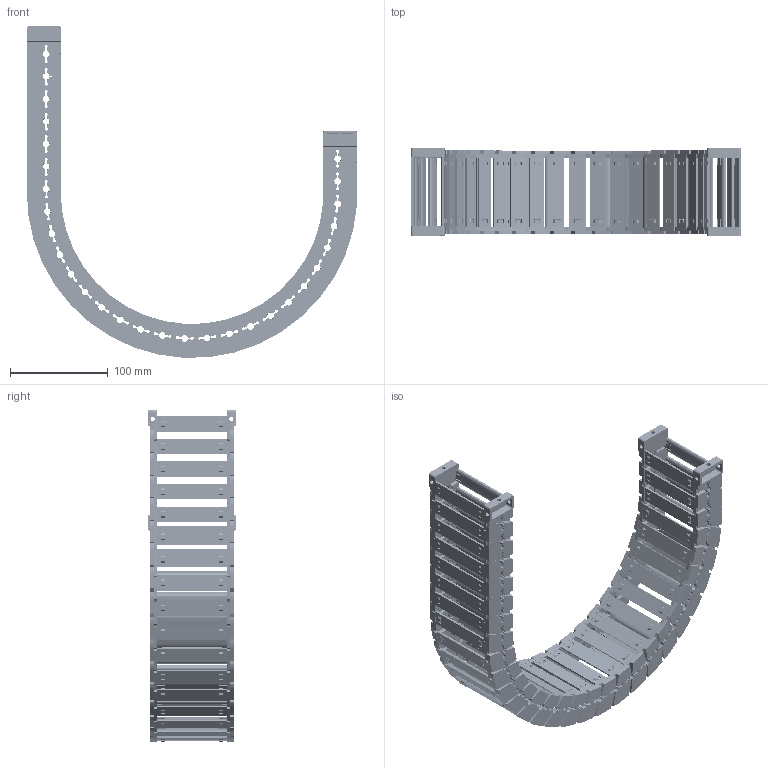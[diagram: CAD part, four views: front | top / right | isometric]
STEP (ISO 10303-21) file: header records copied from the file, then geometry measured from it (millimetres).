
FILE_DESCRIPTION((''),'2;1');
FILE_NAME('JY-28X70-R150_ASM','2026-03-25T20:55:38',('admin'),(''),'CREO PARAMETRIC BY PTC INC, 2021023','CREO PARAMETRIC BY PTC INC, 2021023','');
FILE_SCHEMA(('CONFIG_CONTROL_DESIGN'));
Length unit declared in the file: millimetre
Products named in the file (11): 28XL-L; 25-35XL-YP; 28XL-R; ASM0001_ASM; 28-LTT-A-L; 28-LTT-A-R; 28XL-LTT-A_ASM; 28-LTT-B-L; 28-LTT-B-R; 28XL-LTT-B_ASM; JY-28X70-R150_ASM
Assembly tree (42 placements, depth 3):
  JY-28X70-R150_ASM
    ASM0001_ASM  x28
      28XL-L
      25-35XL-YP
      28XL-R
    28XL-LTT-A_ASM
      28-LTT-A-L
      25-35XL-YP  x2
      28-LTT-A-R
    28XL-LTT-B_ASM
      28-LTT-B-L
      25-35XL-YP  x2
      28-LTT-B-R
Bounding box: 337.23 x 89 x 338.94 mm (x, y, z)
Volume: 518419.6 mm3; surface area: 374082.7 mm2
Topology: 120 solids, 120 shells, 9750 faces, 28988 edges, 19358 vertices
Faces by surface type: plane 6392, cone 1766, cylinder 1394, bspline 198
Entity records: 29175 total; most frequent: CARTESIAN_POINT 9500, ORIENTED_EDGE 4352, DIRECTION 3675, EDGE_CURVE 2176, VERTEX_POINT 1454, VECTOR 1365, LINE 1365, AXIS2_PLACEMENT_3D 1155
